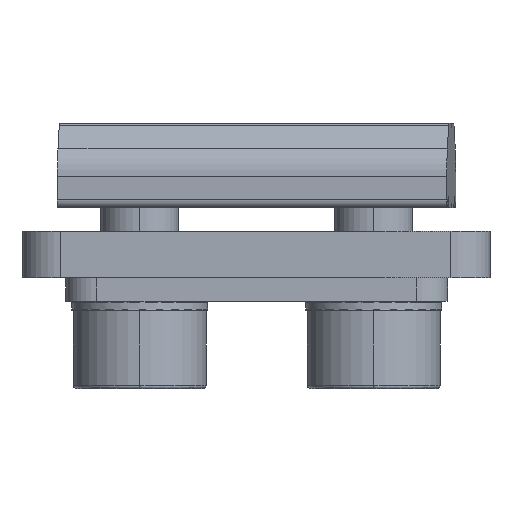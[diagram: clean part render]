
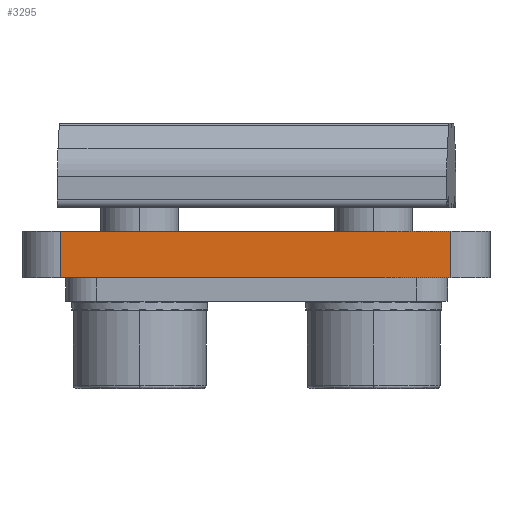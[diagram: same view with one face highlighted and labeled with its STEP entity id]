
A CAD part, front view. The second image highlights one B-rep face of the part: STEP entity #3295.
In plain terms, the highlighted planar face has unit normal (0, -1, 0).
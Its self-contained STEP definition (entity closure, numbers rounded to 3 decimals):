
#1100 = VERTEX_POINT ( 'NONE', #7344 ) ;
#1480 = VECTOR ( 'NONE', #12748, 1000. ) ;
#2423 = CARTESIAN_POINT ( 'NONE',  ( -126.263, -52.822, 61.948 ) ) ;
#3295 = ADVANCED_FACE ( 'NONE', ( #21071 ), #12529, .F. ) ;
#3890 = LINE ( 'NONE', #8831, #14350 ) ;
#4192 = EDGE_CURVE ( 'NONE', #1100, #19541, #23860, .T. ) ;
#4433 = DIRECTION ( 'NONE',  ( 0., 0., 1. ) ) ;
#6784 = DIRECTION ( 'NONE',  ( 0., 1., 0. ) ) ;
#6795 = LINE ( 'NONE', #16531, #1480 ) ;
#6896 = EDGE_CURVE ( 'NONE', #19541, #20235, #6795, .T. ) ;
#7344 = CARTESIAN_POINT ( 'NONE',  ( -101.263, -52.822, 63.448 ) ) ;
#7750 = VERTEX_POINT ( 'NONE', #14575 ) ;
#8288 = EDGE_LOOP ( 'NONE', ( #15250, #11628, #24074, #21642 ) ) ;
#8831 = CARTESIAN_POINT ( 'NONE',  ( -113.763, -52.822, 63.448 ) ) ;
#8873 = LINE ( 'NONE', #2423, #23781 ) ;
#9558 = VECTOR ( 'NONE', #16520, 1000. ) ;
#11134 = EDGE_CURVE ( 'NONE', #20235, #7750, #8873, .T. ) ;
#11628 = ORIENTED_EDGE ( 'NONE', *, *, #11134, .F. ) ;
#12529 = PLANE ( 'NONE',  #14333 ) ;
#12748 = DIRECTION ( 'NONE',  ( -1., 0., 0. ) ) ;
#12772 = EDGE_CURVE ( 'NONE', #1100, #7750, #3890, .T. ) ;
#14125 = CARTESIAN_POINT ( 'NONE',  ( -126.263, -52.822, 60.448 ) ) ;
#14333 = AXIS2_PLACEMENT_3D ( 'NONE', #18473, #6784, #20444 ) ;
#14350 = VECTOR ( 'NONE', #22436, 1000. ) ;
#14575 = CARTESIAN_POINT ( 'NONE',  ( -126.263, -52.822, 63.448 ) ) ;
#14594 = CARTESIAN_POINT ( 'NONE',  ( -101.263, -52.822, 61.948 ) ) ;
#15250 = ORIENTED_EDGE ( 'NONE', *, *, #12772, .T. ) ;
#16520 = DIRECTION ( 'NONE',  ( 0., 0., -1. ) ) ;
#16531 = CARTESIAN_POINT ( 'NONE',  ( -113.763, -52.822, 60.448 ) ) ;
#18473 = CARTESIAN_POINT ( 'NONE',  ( -126.263, -52.822, 60.448 ) ) ;
#19541 = VERTEX_POINT ( 'NONE', #24904 ) ;
#20235 = VERTEX_POINT ( 'NONE', #14125 ) ;
#20444 = DIRECTION ( 'NONE',  ( 0., 0., 1. ) ) ;
#21071 = FACE_OUTER_BOUND ( 'NONE', #8288, .T. ) ;
#21642 = ORIENTED_EDGE ( 'NONE', *, *, #4192, .F. ) ;
#22436 = DIRECTION ( 'NONE',  ( -1., 0., 0. ) ) ;
#23781 = VECTOR ( 'NONE', #4433, 1000. ) ;
#23860 = LINE ( 'NONE', #14594, #9558 ) ;
#24074 = ORIENTED_EDGE ( 'NONE', *, *, #6896, .F. ) ;
#24904 = CARTESIAN_POINT ( 'NONE',  ( -101.263, -52.822, 60.448 ) ) ;
